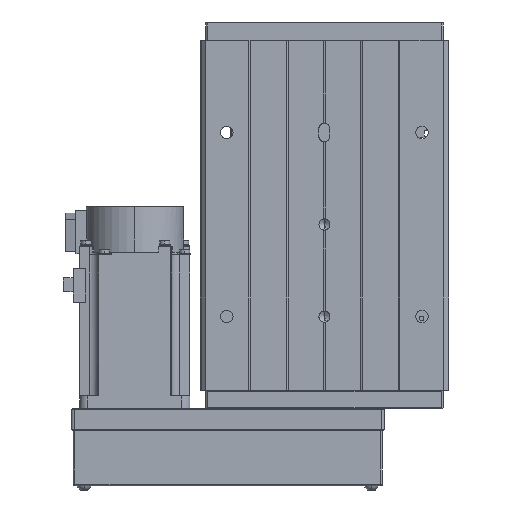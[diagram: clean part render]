
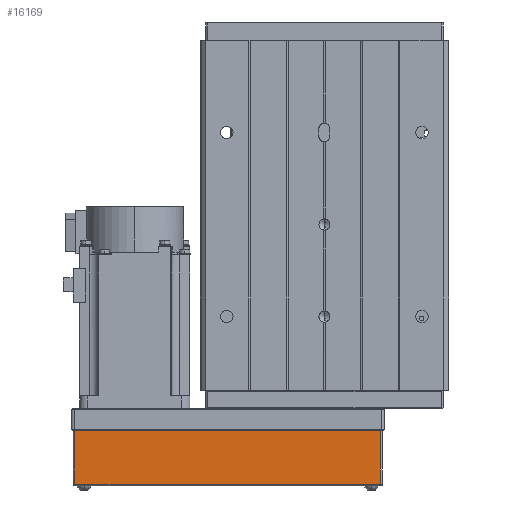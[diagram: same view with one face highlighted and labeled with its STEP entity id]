
A CAD part, front view. The second image highlights one B-rep face of the part: STEP entity #16169.
In plain terms, the highlighted planar face has unit normal (0, -1, 0).
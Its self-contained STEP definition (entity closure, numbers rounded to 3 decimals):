
#1609 = VERTEX_POINT ( 'NONE', #21149 ) ;
#2382 = CARTESIAN_POINT ( 'NONE',  ( -84., -31.5, 0. ) ) ;
#2562 = EDGE_CURVE ( 'NONE', #13898, #32210, #29914, .T. ) ;
#3483 = DIRECTION ( 'NONE',  ( 0., 1., 0. ) ) ;
#5845 = DIRECTION ( 'NONE',  ( 0., 0., -1. ) ) ;
#6471 = CARTESIAN_POINT ( 'NONE',  ( 83., -31.5, 29. ) ) ;
#6495 = FACE_OUTER_BOUND ( 'NONE', #34512, .T. ) ;
#6780 = CARTESIAN_POINT ( 'NONE',  ( -84., -31.5, 29. ) ) ;
#7850 = VERTEX_POINT ( 'NONE', #6471 ) ;
#11656 = CARTESIAN_POINT ( 'NONE',  ( 83., -31.5, 30. ) ) ;
#13898 = VERTEX_POINT ( 'NONE', #20861 ) ;
#14618 = DIRECTION ( 'NONE',  ( 1., 0., 0. ) ) ;
#15486 = VECTOR ( 'NONE', #5845, 1000. ) ;
#15712 = DIRECTION ( 'NONE',  ( 0., 0., 1. ) ) ;
#16169 = ADVANCED_FACE ( 'NONE', ( #6495 ), #18729, .F. ) ;
#18729 = PLANE ( 'NONE',  #21591 ) ;
#19017 = DIRECTION ( 'NONE',  ( -1., 0., 0. ) ) ;
#20861 = CARTESIAN_POINT ( 'NONE',  ( -83., -31.5, 0. ) ) ;
#21098 = LINE ( 'NONE', #33357, #15486 ) ;
#21128 = VECTOR ( 'NONE', #23926, 1000. ) ;
#21149 = CARTESIAN_POINT ( 'NONE',  ( -83., -31.5, 29. ) ) ;
#21591 = AXIS2_PLACEMENT_3D ( 'NONE', #31003, #3483, #15712 ) ;
#23011 = VECTOR ( 'NONE', #19017, 1000. ) ;
#23227 = CARTESIAN_POINT ( 'NONE',  ( 83., -31.5, 0. ) ) ;
#23926 = DIRECTION ( 'NONE',  ( 0., 0., 1. ) ) ;
#25078 = VECTOR ( 'NONE', #14618, 1000. ) ;
#29914 = LINE ( 'NONE', #2382, #25078 ) ;
#31003 = CARTESIAN_POINT ( 'NONE',  ( -84., -31.5, 30. ) ) ;
#32210 = VERTEX_POINT ( 'NONE', #23227 ) ;
#33357 = CARTESIAN_POINT ( 'NONE',  ( -83., -31.5, 30. ) ) ;
#33773 = ORIENTED_EDGE ( 'NONE', *, *, #38015, .T. ) ;
#34285 = LINE ( 'NONE', #6780, #23011 ) ;
#34512 = EDGE_LOOP ( 'NONE', ( #38415, #35425, #33773, #36233 ) ) ;
#35425 = ORIENTED_EDGE ( 'NONE', *, *, #38518, .T. ) ;
#36160 = EDGE_CURVE ( 'NONE', #1609, #13898, #21098, .T. ) ;
#36233 = ORIENTED_EDGE ( 'NONE', *, *, #36160, .T. ) ;
#38015 = EDGE_CURVE ( 'NONE', #7850, #1609, #34285, .T. ) ;
#38415 = ORIENTED_EDGE ( 'NONE', *, *, #2562, .T. ) ;
#38518 = EDGE_CURVE ( 'NONE', #32210, #7850, #39186, .T. ) ;
#39186 = LINE ( 'NONE', #11656, #21128 ) ;
